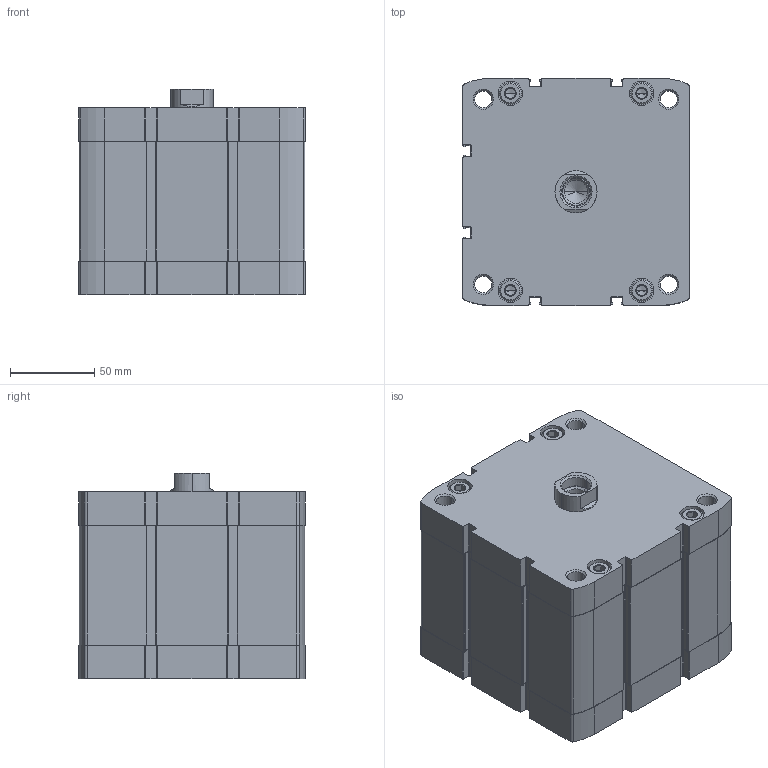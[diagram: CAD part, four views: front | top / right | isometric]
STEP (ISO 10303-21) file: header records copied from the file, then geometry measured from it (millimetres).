
FILE_DESCRIPTION (( 'STEP AP203' ), '1' );
FILE_NAME ('CCN125-30F.STEP', '2020-06-05T19:28:36', ( '' ), ( '' ), 'SwSTEP 2.0', 'SolidWorks 2019', '' );
FILE_SCHEMA (( 'CONFIG_CONTROL_DESIGN' ));
Length unit declared in the file: millimetre
Products named in the file (1): CCN125-30F
Bounding box: 134.6 x 134.6 x 122 mm (x, y, z)
Volume: 1566506.9 mm3; surface area: 217075.7 mm2
Topology: 2 solids, 2 shells, 535 faces, 1370 edges, 861 vertices
Faces by surface type: plane 267, cylinder 194, cone 74
Entity records: 17215 total; most frequent: CARTESIAN_POINT 3931, DIRECTION 2876, ORIENTED_EDGE 2704, EDGE_CURVE 1352, AXIS2_PLACEMENT_3D 1054, VERTEX_POINT 861, LINE 768, VECTOR 768
